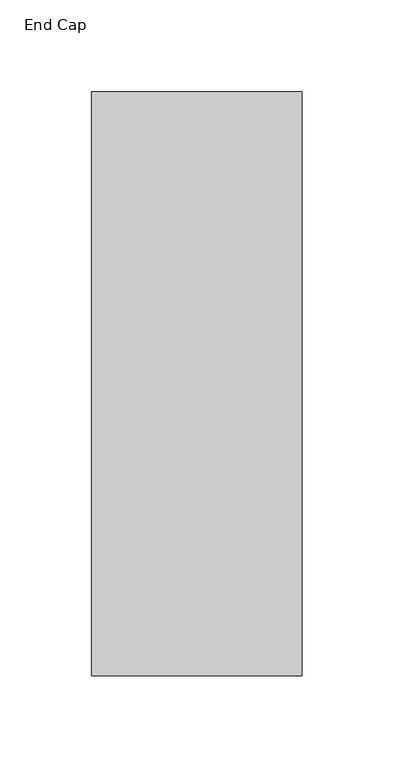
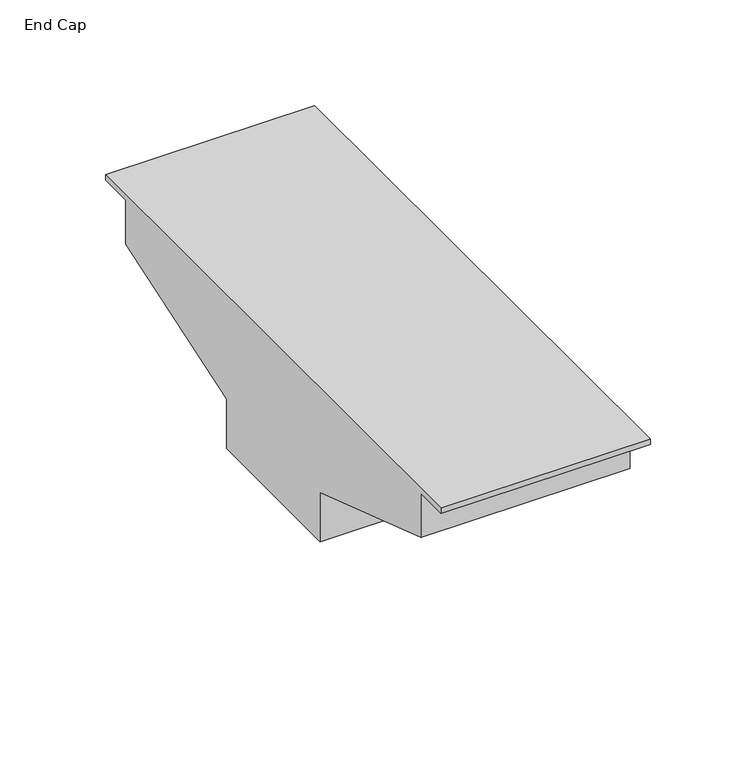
"""IFC4 building model written with IfcOpenShell, lengths in millimetres: furniture geometry, HermanMiller_Ethospace_E2829_CounterTopSupportEndCap : End Cap."""

from ifc_helpers import new_model, si_unit, frame, origin, place, context, project, spatial, polyline, outline, extrude, source, transform, mapped, element, save


def end_cap_54c5994d(model_context):
    return source(origin(), model_context, "Body", "SweptSolid", [
        extrude(outline(polyline([(-31.75, 965.2), (-31.75, 993.775), (-127.0, 1025.525), (-127.0, 1050.925), (-146.05, 1050.925), (-146.05, 1054.1), (171.45, 1054.1), (171.45, 1050.925), (152.4, 1050.925), (152.4, 1025.525), (57.15, 993.775), (57.15, 965.2), (-31.75, 965.2)])), frame((-57.15, 0.0, 0.0), z_axis=(1.0, 0.0, 0.0), x_axis=(0.0, 1.0, 0.0)), (0.0, 0.0, 1.0), 114.3),
    ])


if __name__ == "__main__":
    model = new_model("IFC4")
    model_context = context("Model", 3, world=origin())
    ifc_project = project(units=[si_unit("LENGTHUNIT", "METRE", prefix="MILLI")], contexts=[model_context])
    site = spatial("IfcSite", under=ifc_project)
    building = spatial("IfcBuilding", under=site)
    placement = place(None, origin())
    end_cap_shape = end_cap_54c5994d(model_context)
    element("IfcFurniture", 1, ObjectType="HermanMiller_Ethospace_E2829_CounterTopSupportEndCap : End Cap", at=placement, inside=building, context=model_context, shape_type="MappedRepresentation", body=[
        mapped(end_cap_shape, transform((0.0, 0.0, 0.0), x_axis=(1.0, 0.0, 0.0), y_axis=(0.0, 1.0, 0.0), z_axis=(0.0, 0.0, 1.0))),
    ])
    save(model, "model.ifc")
